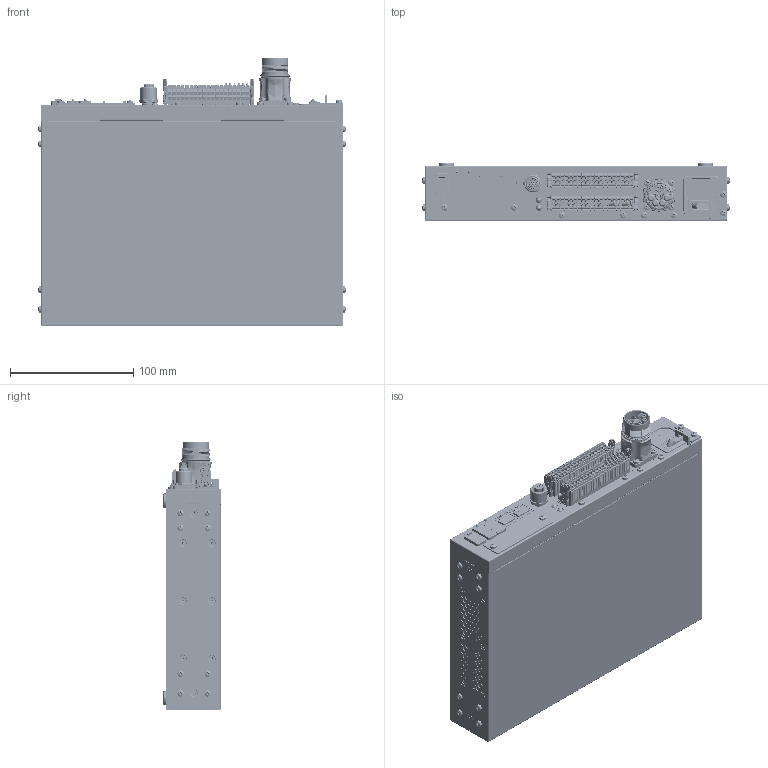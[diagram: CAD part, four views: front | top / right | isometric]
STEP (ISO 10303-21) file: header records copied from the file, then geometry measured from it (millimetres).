
FILE_DESCRIPTION (( 'STEP AP203' ), '1' );
FILE_NAME ('2kw蝠霜.STEP', '2024-10-31T06:55:47', ( 'hello' ), ( '' ), 'SwSTEP 2.0', 'SolidWorks 2018', '' );
FILE_SCHEMA (( 'CONFIG_CONTROL_DESIGN' ));
Products named in the file (2): 2kw蝠霜
Bounding box: 249.74 x 46.5 x 218.06 mm (x, y, z)
Surface area: 308944.9 mm2 (no closed solid volume)
Topology: 0 solids, 911 shells, 23000 faces, 62775 edges, 40359 vertices
Faces by surface type: plane 12005, cylinder 5524, bspline 3351, cone 2113, torus 7
Entity records: 919715 total; most frequent: CARTESIAN_POINT 403657, ORIENTED_EDGE 116847, DIRECTION 86419, EDGE_CURVE 62033, VERTEX_POINT 40355, LINE 31837, VECTOR 31837, AXIS2_PLACEMENT_3D 27291
